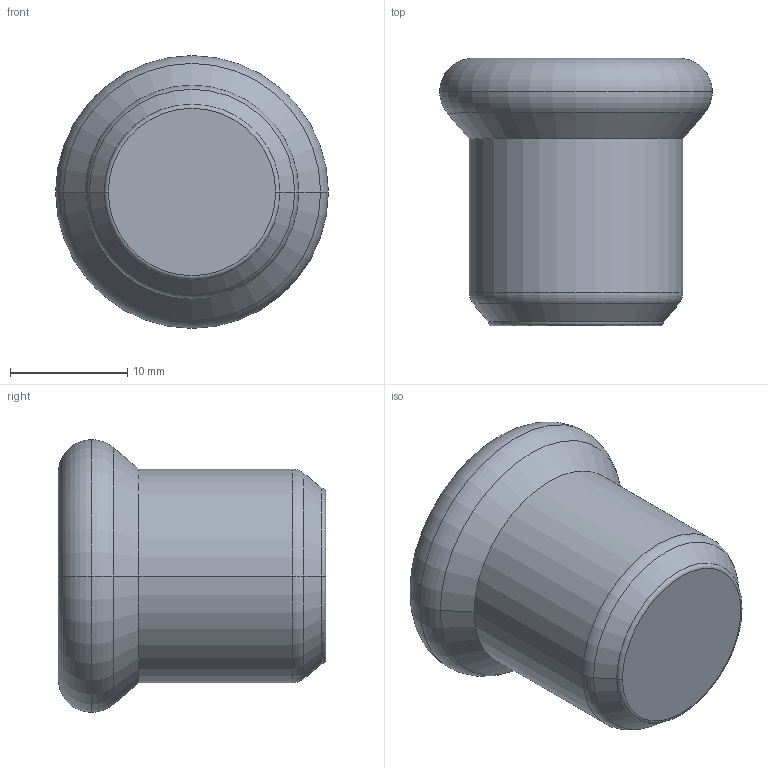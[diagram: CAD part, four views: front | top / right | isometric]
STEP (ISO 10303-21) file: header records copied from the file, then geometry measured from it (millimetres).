
FILE_DESCRIPTION(('OneSpaceDesigner STEP Export'),'2;1');
FILE_NAME('R2729 15.stp','2010-06-10T13:26:00',(''),(''),'OneSpace Designer STEP processor for AP214 (Solid Model)','OneSpace Modeling 15.00A 14-Mar-2007 (C) CoCreate Software GmbH','');
FILE_SCHEMA(('AUTOMOTIVE_DESIGN { 1 0 10303 214 1 1 1 1 }'));
Length unit declared in the file: millimetre
Products named in the file (2): R2729_15
Assembly tree (1 placements, depth 2):
  R2729_15
    R2729_15
Bounding box: 23.3 x 22.85 x 23.3 mm (x, y, z)
Volume: 2696.8 mm3; surface area: 3334.8 mm2
Topology: 1 solids, 1 shells, 61 faces, 147 edges, 94 vertices
Faces by surface type: plane 32, cylinder 17, torus 8, cone 4
Entity records: 1637 total; most frequent: ORIENTED_EDGE 294, CARTESIAN_POINT 263, DIRECTION 251, EDGE_CURVE 147, VERTEX_POINT 94, VECTOR 87, LINE 87, AXIS2_PLACEMENT_3D 82
